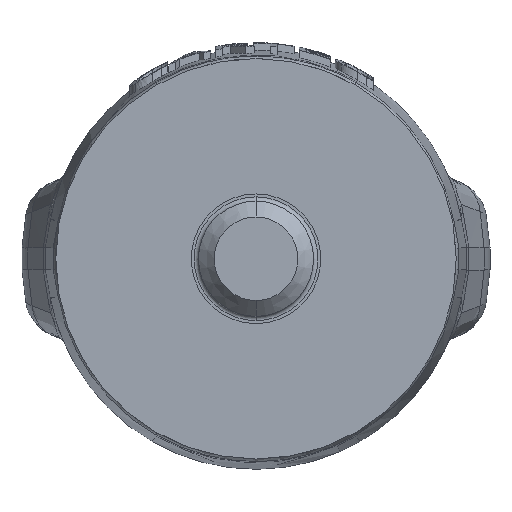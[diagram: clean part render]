
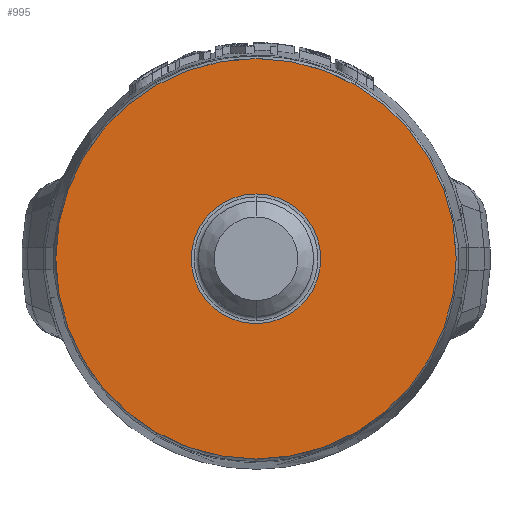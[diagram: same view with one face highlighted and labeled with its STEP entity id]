
A CAD part, front view. The second image highlights one B-rep face of the part: STEP entity #995.
In plain terms, the highlighted planar face has unit normal (0, -1, 0).
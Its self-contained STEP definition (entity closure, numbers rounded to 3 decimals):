
#995=ADVANCED_FACE('',(#1984,#1985),#1986,.F.);
#1984=FACE_OUTER_BOUND('',#7104,.T.);
#1985=FACE_BOUND('',#7105,.T.);
#1986=PLANE('',#7106);
#7104=EDGE_LOOP('',(#9686,#9687));
#7105=EDGE_LOOP('',(#9688,#9689));
#7106=AXIS2_PLACEMENT_3D('',#9690,#9691,#9692);
#9686=ORIENTED_EDGE('',*,*,#10859,.T.);
#9687=ORIENTED_EDGE('',*,*,#10849,.T.);
#9688=ORIENTED_EDGE('',*,*,#10852,.T.);
#9689=ORIENTED_EDGE('',*,*,#10857,.T.);
#9690=CARTESIAN_POINT('',(0.,-42.0,0.));
#9691=DIRECTION('',(0.0,1.0,0.0));
#9692=DIRECTION('',(1.0,0.0,-0.0));
#10849=EDGE_CURVE('',#12559,#12563,#12565,.T.);
#10852=EDGE_CURVE('',#12570,#12567,#12571,.T.);
#10857=EDGE_CURVE('',#12567,#12570,#12577,.T.);
#10859=EDGE_CURVE('',#12563,#12559,#12579,.T.);
#12559=VERTEX_POINT('',#20129);
#12563=VERTEX_POINT('',#20134);
#12565=CIRCLE('',#20137,27.811);
#12567=VERTEX_POINT('',#20139);
#12570=VERTEX_POINT('',#20143);
#12571=CIRCLE('',#20144,9.0);
#12577=CIRCLE('',#20151,9.0);
#12579=CIRCLE('',#20153,27.811);
#20129=CARTESIAN_POINT('',(-27.811,-42.0,0.));
#20134=CARTESIAN_POINT('',(27.811,-42.0,0.));
#20137=AXIS2_PLACEMENT_3D('',#21204,#21205,#21206);
#20139=CARTESIAN_POINT('',(-9.0,-42.0,0.));
#20143=CARTESIAN_POINT('',(9.0,-42.0,0.));
#20144=AXIS2_PLACEMENT_3D('',#21208,#21209,#21210);
#20151=AXIS2_PLACEMENT_3D('',#21218,#21219,#21220);
#20153=AXIS2_PLACEMENT_3D('',#21221,#21222,#21223);
#21204=CARTESIAN_POINT('',(0.0,-42.0,0.0));
#21205=DIRECTION('',(0.0,-1.0,0.0));
#21206=DIRECTION('',(-1.0,0.0,0.));
#21208=CARTESIAN_POINT('',(0.0,-42.0,0.0));
#21209=DIRECTION('',(0.0,1.0,0.0));
#21210=DIRECTION('',(-1.0,0.0,0.));
#21218=CARTESIAN_POINT('',(0.0,-42.0,0.0));
#21219=DIRECTION('',(0.0,1.0,0.0));
#21220=DIRECTION('',(-1.0,0.0,0.));
#21221=CARTESIAN_POINT('',(0.0,-42.0,0.0));
#21222=DIRECTION('',(0.0,-1.0,0.0));
#21223=DIRECTION('',(-1.0,0.0,0.));
